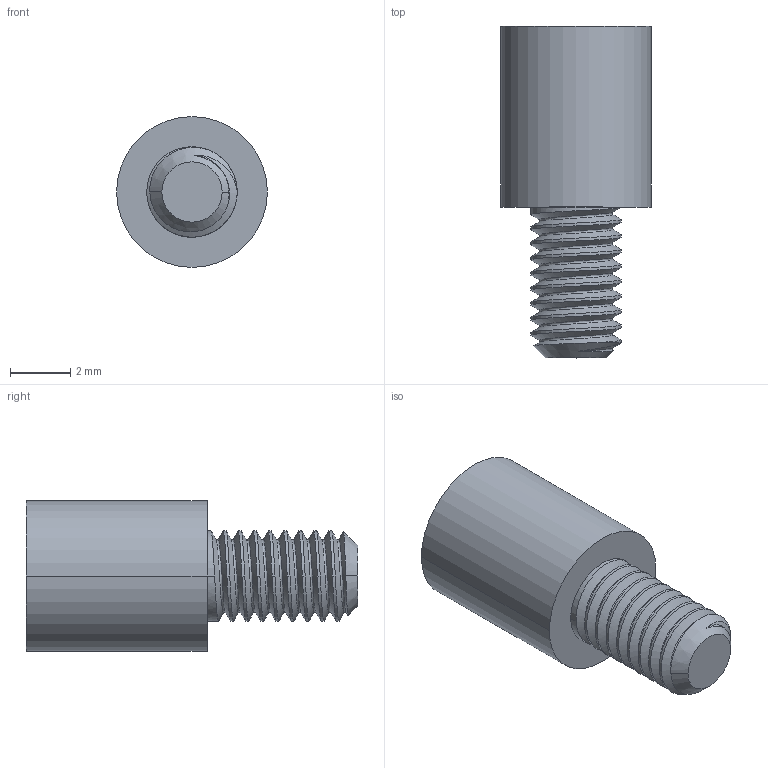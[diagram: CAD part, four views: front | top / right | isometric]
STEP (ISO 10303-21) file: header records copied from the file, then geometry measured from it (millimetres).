
FILE_DESCRIPTION (( 'STEP AP214' ), '1' );
FILE_NAME ('PCSN-6.STEP', '2014-12-30T11:05:56', ( 'Tester2' ), ( '' ), 'SwSTEP 2.0', 'SolidWorks 2012', '' );
FILE_SCHEMA (( 'AUTOMOTIVE_DESIGN' ));
Length unit declared in the file: millimetre
Products named in the file (1): PCSN-6
Bounding box: 5 x 11 x 5 mm (x, y, z)
Volume: 111.5 mm3; surface area: 269.2 mm2
Topology: 1 solids, 1 shells, 56 faces, 154 edges, 100 vertices
Faces by surface type: cylinder 36, cone 8, bspline 7, plane 5
Entity records: 4915 total; most frequent: CARTESIAN_POINT 3499, ORIENTED_EDGE 304, DIRECTION 184, EDGE_CURVE 152, VERTEX_POINT 100, AXIS2_PLACEMENT_3D 69, EDGE_LOOP 58, FACE_OUTER_BOUND 56
